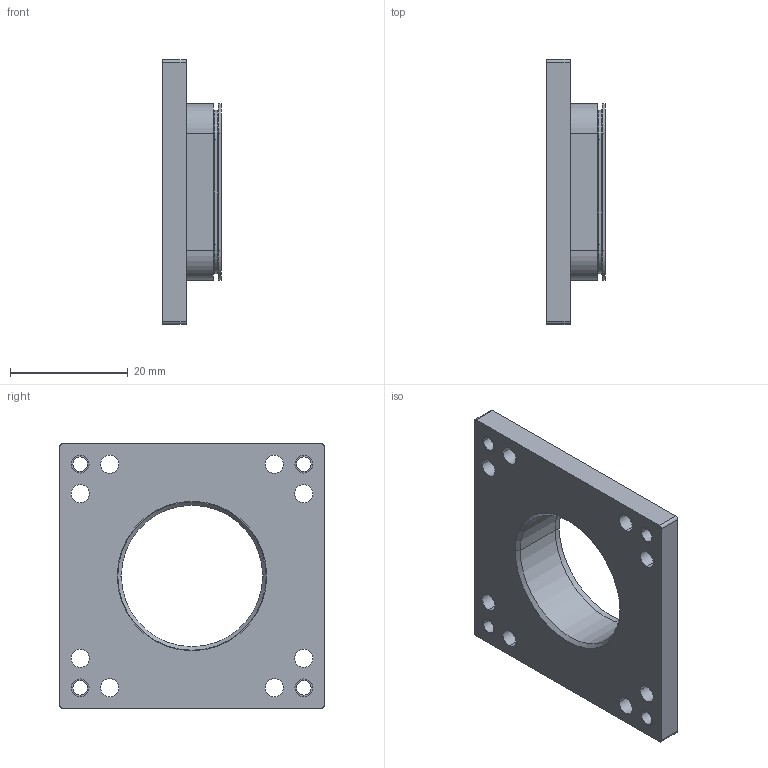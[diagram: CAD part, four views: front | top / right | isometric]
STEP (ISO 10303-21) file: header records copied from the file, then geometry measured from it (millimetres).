
FILE_DESCRIPTION(/* description */ ('VariCAD 2017-2.10 AP-214'),/* implementation_level */ '2;1');
FILE_NAME(/* name */ '08_PMT_suppoprt_short.stp',/* time_stamp */ '2023-12-21T11:01:55+02:00',/* author */ (''),/* organization */ (''),/* preprocessor_version */ 'VariCAD 2017-2.10',/* originating_system */ 'VariCAD 2017-2.10; kernel version (20130303)',/* authorisation */ '');
FILE_SCHEMA(('AUTOMOTIVE_DESIGN'));
Length unit declared in the file: millimetre
Products named in the file (2): 08_PMT_suppoprt_short
Assembly tree (1 placements, depth 2):
  08_PMT_suppoprt_short
    (unnamed)
Bounding box: 10 x 45 x 45 mm (x, y, z)
Volume: 8363.4 mm3; surface area: 5821 mm2
Topology: 1 solids, 1 shells, 104 faces, 264 edges, 178 vertices
Faces by surface type: cylinder 60, plane 34, torus 8, cone 2
Entity records: 3973 total; most frequent: DIRECTION 634, CARTESIAN_POINT 550, ORIENTED_EDGE 528, EDGE_CURVE 264, AXIS2_PLACEMENT_3D 262, VERTEX_POINT 178, CIRCLE 154, EDGE_LOOP 146
